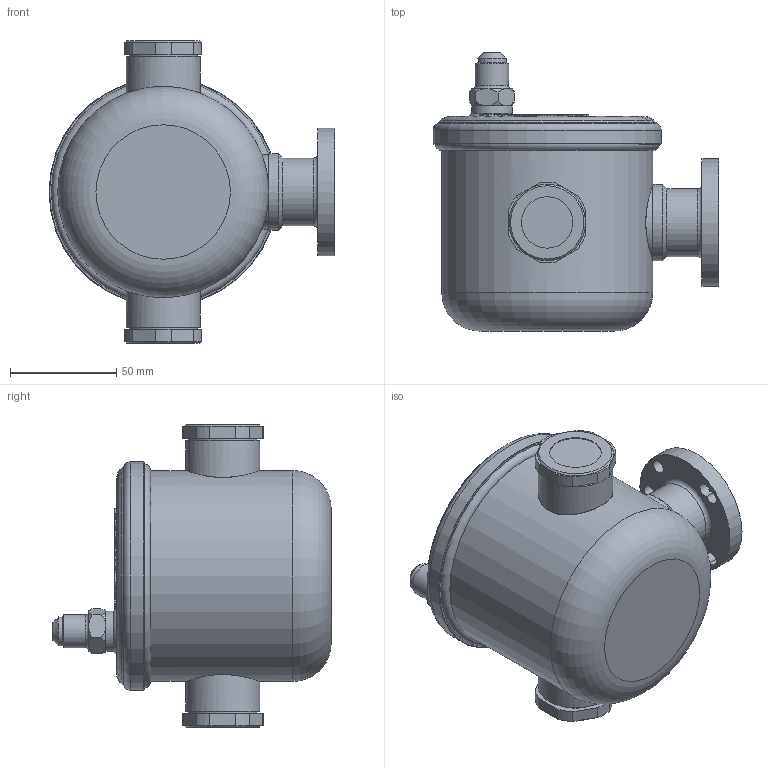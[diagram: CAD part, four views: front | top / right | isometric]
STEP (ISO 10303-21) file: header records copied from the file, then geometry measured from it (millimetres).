
FILE_DESCRIPTION(/* description */ (''),/* implementation_level */ '2;1');
FILE_NAME(/* name */ 'P:\ORE_ERM\OR-0-BC\OR-0-BC.stp',/* time_stamp */ '2017-10-05T08:40:58+02:00',/* author */ ('neufeld'),/* organization */ (''),/* preprocessor_version */ 'ST-DEVELOPER v16.1',/* originating_system */ 'Autodesk Inventor 2016',/* authorisation */ '');
FILE_SCHEMA (('AUTOMOTIVE_DESIGN { 1 0 10303 214 3 1 1 }'));
Length unit declared in the file: millimetre
Products named in the file (2): OR-0-BC; OR-0-BC_1
Assembly tree (1 placements, depth 2):
  OR-0-BC_1
    OR-0-BC
Bounding box: 134.6 x 131 x 142.4 mm (x, y, z)
Volume: 860363.7 mm3; surface area: 65211.2 mm2
Topology: 1 solids, 1 shells, 1141 faces, 3038 edges, 2012 vertices
Faces by surface type: plane 668, bspline 389, cylinder 57, cone 18, torus 9
Full cylindrical faces by diameter (mm): 6.4 x2, 6.7 x1, 7.2 x1, 13.5 x1, 15.7 x1, 19 x1, 24.2 x2, 26 x1, 32 x1, 32.15 x2, 32.35 x1, 35 x3, 35.3 x2, 36 x1, 37.95 x1, 60 x1, 99.3 x1, 107.5 x1
Entity records: 38506 total; most frequent: CARTESIAN_POINT 12899, ORIENTED_EDGE 5998, DIRECTION 3811, EDGE_CURVE 2985, LINE 2039, VECTOR 2039, VERTEX_POINT 1997, EDGE_LOOP 1304
